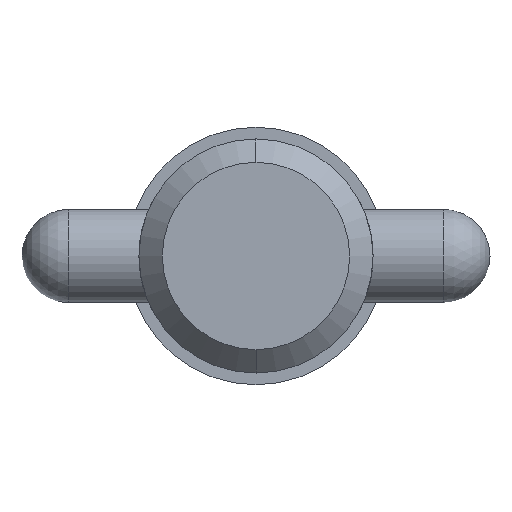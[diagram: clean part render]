
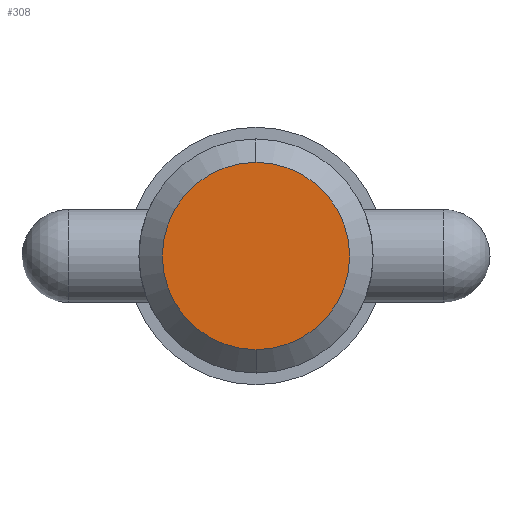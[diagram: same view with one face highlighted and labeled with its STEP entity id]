
A CAD part, left-side view. The second image highlights one B-rep face of the part: STEP entity #308.
In plain terms, the highlighted planar face has unit normal (-1, 0, 0).
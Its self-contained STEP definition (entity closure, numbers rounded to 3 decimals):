
#18 = AXIS2_PLACEMENT_3D ( 'NONE', #274, #848, #911 ) ;
#28 = PLANE ( 'NONE',  #18 ) ;
#78 = VERTEX_POINT ( 'NONE', #250 ) ;
#123 = CARTESIAN_POINT ( 'NONE',  ( 0., 0., 0. ) ) ;
#181 = CARTESIAN_POINT ( 'NONE',  ( 0., 0., -6.352 ) ) ;
#250 = CARTESIAN_POINT ( 'NONE',  ( 0., 0., 6.352 ) ) ;
#274 = CARTESIAN_POINT ( 'NONE',  ( 0., 0., 0. ) ) ;
#308 = ADVANCED_FACE ( 'NONE', ( #1013 ), #28, .T. ) ;
#421 = AXIS2_PLACEMENT_3D ( 'NONE', #123, #445, #681 ) ;
#445 = DIRECTION ( 'NONE',  ( 1., 0., 0. ) ) ;
#455 = ORIENTED_EDGE ( 'NONE', *, *, #831, .F. ) ;
#500 = DIRECTION ( 'NONE',  ( 0., 0., -1. ) ) ;
#681 = DIRECTION ( 'NONE',  ( 0., 0., -1. ) ) ;
#722 = EDGE_CURVE ( 'NONE', #78, #1001, #935, .T. ) ;
#742 = CIRCLE ( 'NONE', #822, 6.352 ) ;
#803 = EDGE_LOOP ( 'NONE', ( #455, #974 ) ) ;
#814 = DIRECTION ( 'NONE',  ( 1., 0., 0. ) ) ;
#822 = AXIS2_PLACEMENT_3D ( 'NONE', #994, #814, #500 ) ;
#831 = EDGE_CURVE ( 'NONE', #1001, #78, #742, .T. ) ;
#848 = DIRECTION ( 'NONE',  ( -1., 0., 0. ) ) ;
#911 = DIRECTION ( 'NONE',  ( 0., 0., 1. ) ) ;
#935 = CIRCLE ( 'NONE', #421, 6.352 ) ;
#974 = ORIENTED_EDGE ( 'NONE', *, *, #722, .F. ) ;
#994 = CARTESIAN_POINT ( 'NONE',  ( 0., 0., 0. ) ) ;
#1001 = VERTEX_POINT ( 'NONE', #181 ) ;
#1013 = FACE_OUTER_BOUND ( 'NONE', #803, .T. ) ;
